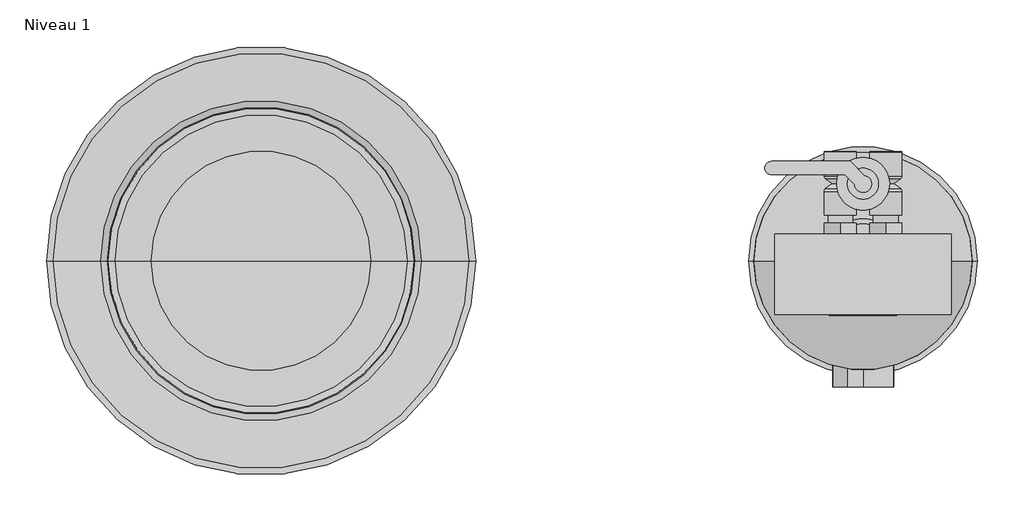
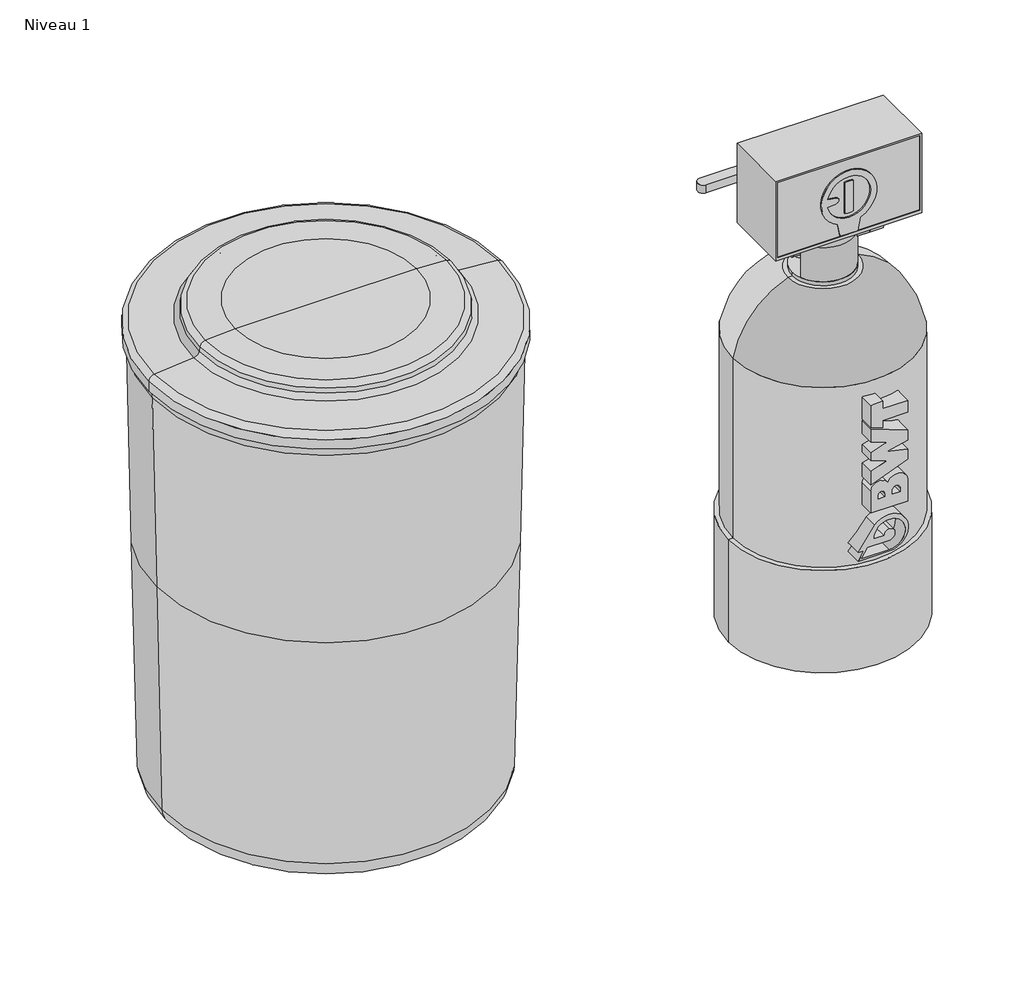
# One storey: 1 flow terminal, 1 proxy.
"""IFC4 building model written with IfcOpenShell, lengths in millimetres."""

from ifc_helpers import new_model, si_unit, origin, place, context, project, spatial, transform, mapped, element, save
from components import proxy_680_x_480_mm_584e9f77, ec_17_c5b48052

model = new_model("IFC4")

# Units and contexts
model_context = context("Model", 3, world=origin())
ifc_project = project(units=[si_unit("LENGTHUNIT", "METRE", prefix="MILLI")], contexts=[model_context])

# Site, building, storey
site = spatial("IfcSite", under=ifc_project)
building = spatial("IfcBuilding", under=site)
storey = spatial("IfcBuildingStorey", under=building, Name="Niveau 1", Elevation=0.0)

# Proxy
placement = place(None, origin())
proxy_680_x_480_mm_shape = proxy_680_x_480_mm_584e9f77(model_context)
element("IfcBuildingElementProxy", 1, Name="BWT_Bac à sel type 1 : 680 x 480 mm", ObjectType="BWT_Bac à sel type 1 : 680 x 480 mm", at=placement, inside=storey, context=model_context, shape_type="MappedRepresentation", body=[
    mapped(proxy_680_x_480_mm_shape, transform((-2038.2618794, -7199.1350154, 0.0), x_axis=(1.0, 0.0, 0.0), y_axis=(0.0, 1.0, 0.0), z_axis=(0.0, 0.0, 1.0))),
])

# Flow terminal
ec_17_shape = ec_17_c5b48052(model_context)
element("IfcFlowTerminal", 2, ObjectType="BWT_EC : EC 17", at=placement, inside=storey, context=model_context, shape_type="MappedRepresentation", body=[
    mapped(ec_17_shape, transform((-1367.5181172, -7199.1350154, 0.0), x_axis=(1.0, 0.0, 0.0), y_axis=(0.0, 1.0, 0.0), z_axis=(0.0, 0.0, 1.0))),
])

save(model, "model.ifc")
